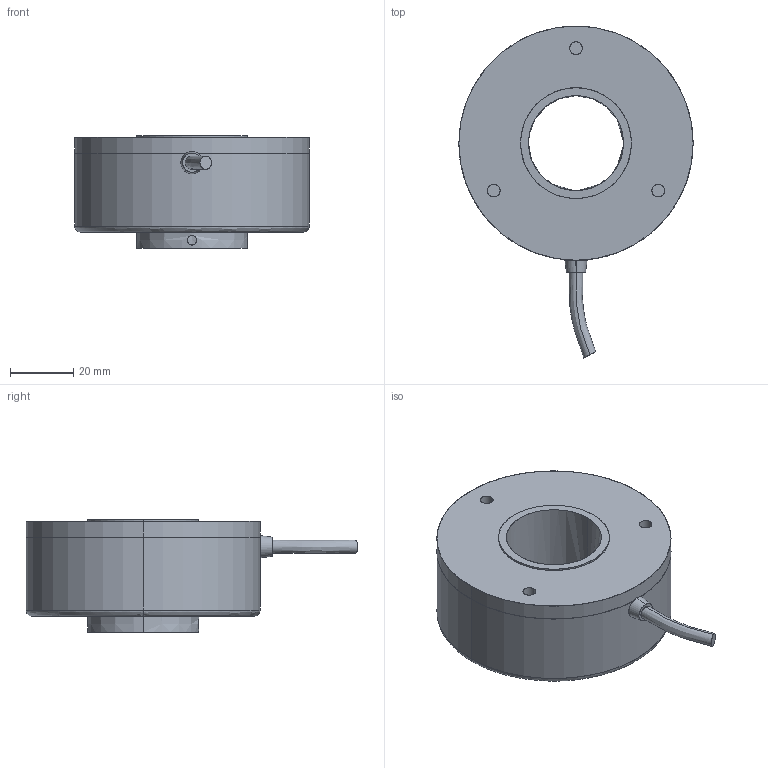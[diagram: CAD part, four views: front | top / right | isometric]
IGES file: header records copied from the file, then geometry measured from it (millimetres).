
Start section: SolidWorks IGES file using analytic representation for surfaces
Bounding box: 74 x 104.87 x 35.5 mm (x, y, z)
Surface area: 32005 mm2 (no closed solid volume)
Topology: 0 solids, 0 shells, 46 faces, 1604 edges, 1604 vertices
Faces by surface type: revolution 30, bspline 16
